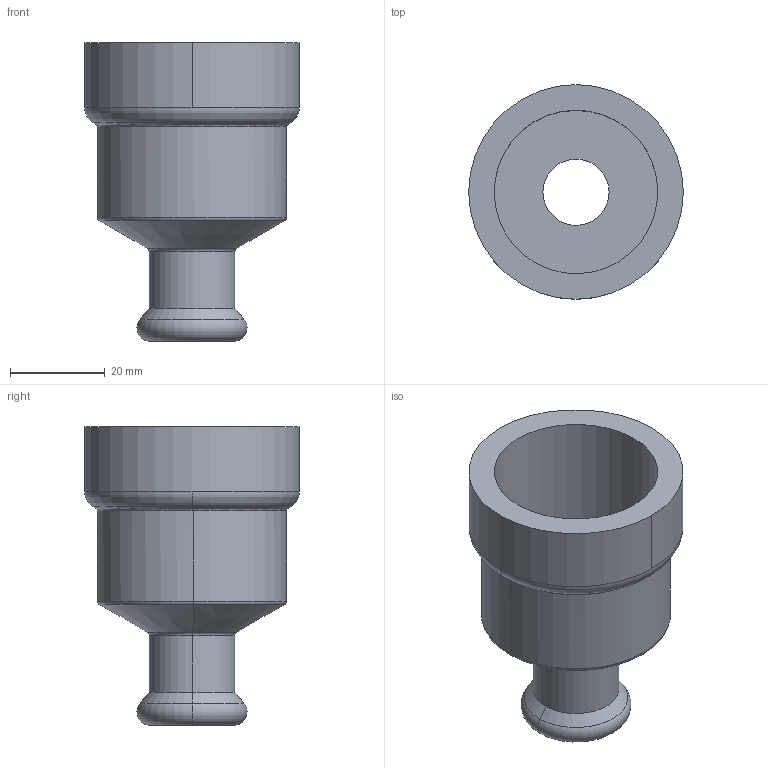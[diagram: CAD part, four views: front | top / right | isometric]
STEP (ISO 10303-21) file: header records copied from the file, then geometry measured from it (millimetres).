
FILE_DESCRIPTION(('Creo Elements/Direct Modeling STEP Export'),'2;1');
FILE_NAME('C9441_1_15.stp','2020-07-20T13:43:28',(''),(''),'PTC Creo Elements/Direct Modeling STEP processor for AP214 (Solid Model)','PTC Creo Elements/Direct Modeling 19.0C 15-Aug-2015 (C) Parametric Technology GmbH','');
FILE_SCHEMA(('AUTOMOTIVE_DESIGN { 1 0 10303 214 1 1 1 1 }'));
Length unit declared in the file: millimetre
Products named in the file (1): C9441_1_15
Bounding box: 45.4 x 45.4 x 63.19 mm (x, y, z)
Volume: 23749.9 mm3; surface area: 14409.6 mm2
Topology: 1 solids, 1 shells, 32 faces, 68 edges, 40 vertices
Faces by surface type: cylinder 12, torus 10, cone 6, plane 4
Entity records: 790 total; most frequent: DIRECTION 140, ORIENTED_EDGE 136, CARTESIAN_POINT 119, EDGE_CURVE 68, AXIS2_PLACEMENT_3D 61, VERTEX_POINT 40, EDGE_LOOP 36, FACE_OUTER_BOUND 32
